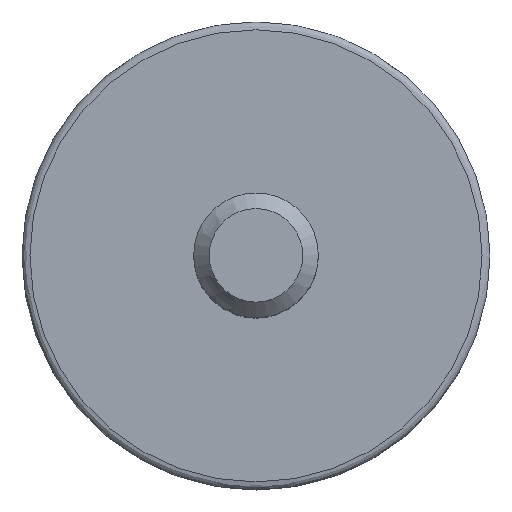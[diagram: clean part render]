
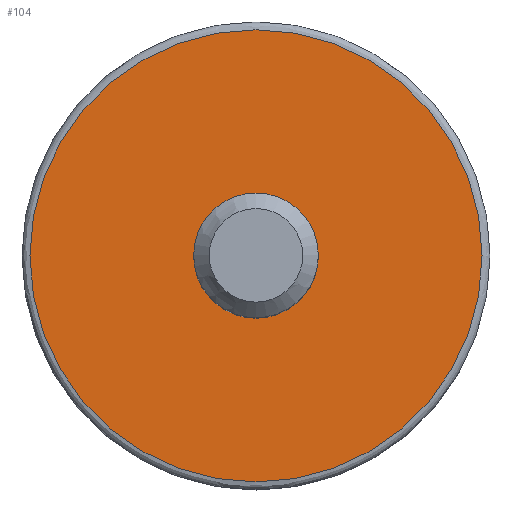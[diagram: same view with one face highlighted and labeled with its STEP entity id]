
A CAD part, top view. The second image highlights one B-rep face of the part: STEP entity #104.
In plain terms, the highlighted planar face has unit normal (0, 0, 1).
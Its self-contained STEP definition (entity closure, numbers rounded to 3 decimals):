
#79=CARTESIAN_POINT('',(1273.584,958.911,10.0));
#80=DIRECTION('',(0.0,0.0,1.0));
#81=DIRECTION('',(1.0,0.0,0.0));
#82=AXIS2_PLACEMENT_3D('',#79,#80,#81);
#83=PLANE('',#82);
#84=CARTESIAN_POINT('',(1306.084,976.911,10.0));
#85=VERTEX_POINT('',#84);
#86=CARTESIAN_POINT('',(1277.084,976.911,10.0));
#87=VERTEX_POINT('',#86);
#88=CARTESIAN_POINT('',(1291.584,976.911,10.0));
#89=DIRECTION('',(0.0,0.0,1.0));
#90=DIRECTION('',(1.0,0.0,0.0));
#91=AXIS2_PLACEMENT_3D('',#88,#89,#90);
#92=CIRCLE('',#91,14.5);
#93=EDGE_CURVE('',#85,#87,#92,.T.);
#94=ORIENTED_EDGE('',*,*,#93,.T.);
#95=CARTESIAN_POINT('',(1291.584,976.911,10.0));
#96=DIRECTION('',(0.0,0.0,1.0));
#97=DIRECTION('',(1.0,0.0,0.0));
#98=AXIS2_PLACEMENT_3D('',#95,#96,#97);
#99=CIRCLE('',#98,14.5);
#100=EDGE_CURVE('',#87,#85,#99,.T.);
#101=ORIENTED_EDGE('',*,*,#100,.T.);
#102=EDGE_LOOP('',(#94,#101));
#103=FACE_OUTER_BOUND('',#102,.T.);
#104=ADVANCED_FACE('',(#103),#83,.T.);
